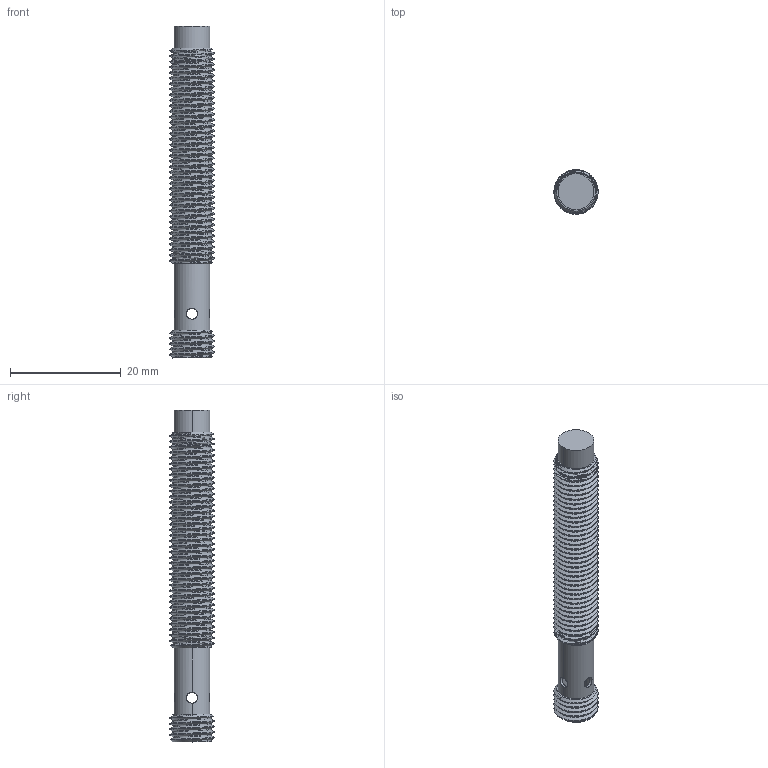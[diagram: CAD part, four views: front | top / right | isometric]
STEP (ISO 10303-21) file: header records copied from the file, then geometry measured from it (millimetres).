
FILE_DESCRIPTION (( 'STEP AP214' ), '1' );
FILE_NAME ('1.BIS3N68.STEP', '2024-11-07T06:34:34', ( '' ), ( '' ), 'SwSTEP 2.0', 'SolidWorks 2022', '' );
FILE_SCHEMA (( 'AUTOMOTIVE_DESIGN' ));
Length unit declared in the file: millimetre
Products named in the file (1): 1.BIS3N68
Bounding box: 8 x 7.99 x 60 mm (x, y, z)
Volume: 2185.6 mm3; surface area: 2234 mm2
Topology: 1 solids, 1 shells, 126 faces, 356 edges, 232 vertices
Faces by surface type: cylinder 100, cone 10, plane 10, bspline 6
Entity records: 10935 total; most frequent: CARTESIAN_POINT 8201, ORIENTED_EDGE 712, DIRECTION 404, EDGE_CURVE 356, VERTEX_POINT 232, AXIS2_PLACEMENT_3D 141, EDGE_LOOP 134, ADVANCED_FACE 126
